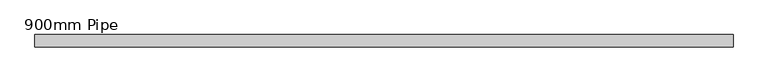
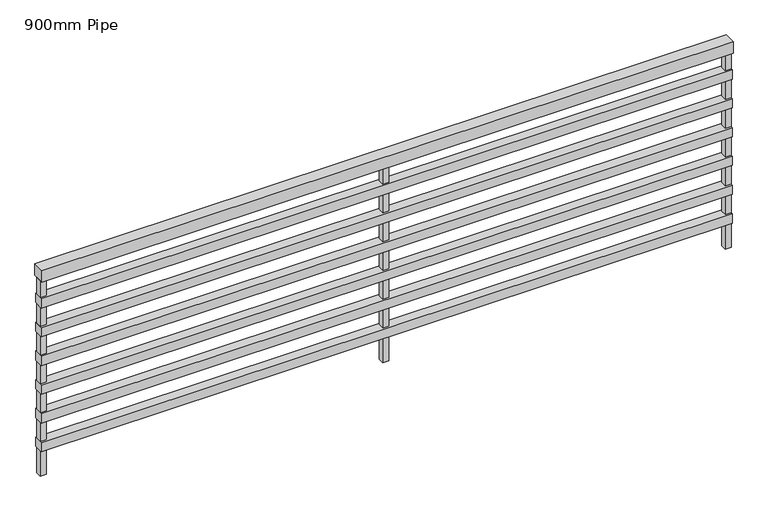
"""IFC4 building model written with IfcOpenShell, lengths in millimetres: railing geometry, 900mm Pipe."""

from ifc_helpers import new_model, si_unit, frame, origin, place, context, project, spatial, polyline, outline, extrude, source, transform, mapped, element, save


def railing_900mm_pipe_97c98137(model_context):
    return source(origin(), model_context, "Body", "SweptSolid", [
        extrude(outline(polyline([(5302.8037835, 10817.6290541), (5302.8037835, 10867.6290541), (8142.8037835, 10867.6290541), (8142.8037835, 10817.6290541), (5302.8037835, 10817.6290541)])), frame((0.0, 0.0, 12650.0), z_axis=(0.0, 0.0, 1.0), x_axis=(1.0, 0.0, 0.0)), (0.0, 0.0, 1.0), 50.0),
        extrude(outline(polyline([(5302.8037835, 10822.6290541), (5302.8037835, 10862.6290541), (8142.8037835, 10862.6290541), (8142.8037835, 10822.6290541), (5302.8037835, 10822.6290541)])), frame((0.0, 0.0, 12535.0), z_axis=(0.0, 0.0, 1.0), x_axis=(1.0, 0.0, 0.0)), (0.0, 0.0, 1.0), 40.0),
        extrude(outline(polyline([(5302.8037835, 10822.6290541), (5302.8037835, 10862.6290541), (8142.8037835, 10862.6290541), (8142.8037835, 10822.6290541), (5302.8037835, 10822.6290541)])), frame((0.0, 0.0, 12410.0), z_axis=(0.0, 0.0, 1.0), x_axis=(1.0, 0.0, 0.0)), (0.0, 0.0, 1.0), 40.0),
        extrude(outline(polyline([(5302.8037835, 10822.6290541), (5302.8037835, 10862.6290541), (8142.8037835, 10862.6290541), (8142.8037835, 10822.6290541), (5302.8037835, 10822.6290541)])), frame((0.0, 0.0, 12285.0), z_axis=(0.0, 0.0, 1.0), x_axis=(1.0, 0.0, 0.0)), (0.0, 0.0, 1.0), 40.0),
        extrude(outline(polyline([(5302.8037835, 10822.6290541), (5302.8037835, 10862.6290541), (8142.8037835, 10862.6290541), (8142.8037835, 10822.6290541), (5302.8037835, 10822.6290541)])), frame((0.0, 0.0, 12160.0), z_axis=(0.0, 0.0, 1.0), x_axis=(1.0, 0.0, 0.0)), (0.0, 0.0, 1.0), 40.0),
        extrude(outline(polyline([(5302.8037835, 10822.6290541), (5302.8037835, 10862.6290541), (8142.8037835, 10862.6290541), (8142.8037835, 10822.6290541), (5302.8037835, 10822.6290541)])), frame((0.0, 0.0, 12035.0), z_axis=(0.0, 0.0, 1.0), x_axis=(1.0, 0.0, 0.0)), (0.0, 0.0, 1.0), 40.0),
        extrude(outline(polyline([(5302.8037835, 10822.6290541), (5302.8037835, 10862.6290541), (8142.8037835, 10862.6290541), (8142.8037835, 10822.6290541), (5302.8037835, 10822.6290541)])), frame((0.0, 0.0, 11910.0), z_axis=(0.0, 0.0, 1.0), x_axis=(1.0, 0.0, 0.0)), (0.0, 0.0, 1.0), 40.0),
        extrude(outline(polyline([(6710.3037835, 10855.1290541), (6735.3037835, 10855.1290541), (6735.3037835, 10830.1290541), (6710.3037835, 10830.1290541), (6710.3037835, 10855.1290541)])), frame((0.0, 0.0, 11800.0), z_axis=(0.0, 0.0, 1.0), x_axis=(1.0, 0.0, 0.0)), (0.0, 0.0, 1.0), 850.0),
        extrude(outline(polyline([(8117.8037835, 10855.1290541), (8142.8037835, 10855.1290541), (8142.8037835, 10830.1290541), (8117.8037835, 10830.1290541), (8117.8037835, 10855.1290541)])), frame((0.0, 0.0, 11800.0), z_axis=(0.0, 0.0, 1.0), x_axis=(1.0, 0.0, 0.0)), (0.0, 0.0, 1.0), 850.0),
        extrude(outline(polyline([(5302.8037835, 10855.1290541), (5327.8037835, 10855.1290541), (5327.8037835, 10830.1290541), (5302.8037835, 10830.1290541), (5302.8037835, 10855.1290541)])), frame((0.0, 0.0, 11800.0), z_axis=(0.0, 0.0, 1.0), x_axis=(1.0, 0.0, 0.0)), (0.0, 0.0, 1.0), 850.0),
    ])


if __name__ == "__main__":
    model = new_model("IFC4")
    model_context = context("Model", 3, world=origin())
    ifc_project = project(units=[si_unit("LENGTHUNIT", "METRE", prefix="MILLI")], contexts=[model_context])
    site = spatial("IfcSite", under=ifc_project)
    building = spatial("IfcBuilding", under=site)
    placement = place(None, origin())
    railing_900mm_pipe_shape = railing_900mm_pipe_97c98137(model_context)
    element("IfcRailing", 1, ObjectType="900mm Pipe", at=placement, inside=building, context=model_context, shape_type="MappedRepresentation", body=[
        mapped(railing_900mm_pipe_shape, transform((0.0, 0.0, 0.0), x_axis=(1.0, 0.0, 0.0), y_axis=(0.0, 1.0, 0.0), z_axis=(0.0, 0.0, 1.0))),
    ])
    save(model, "model.ifc")
